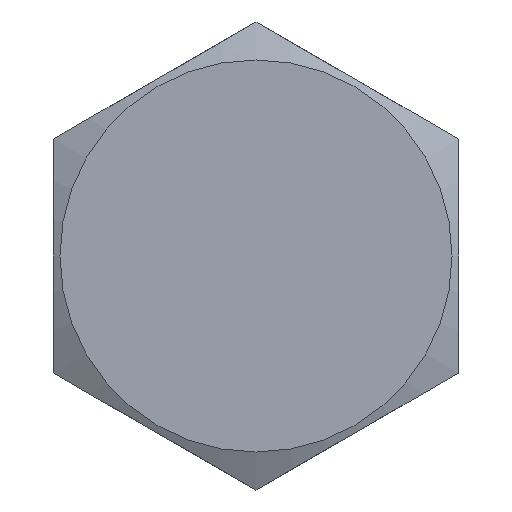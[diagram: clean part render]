
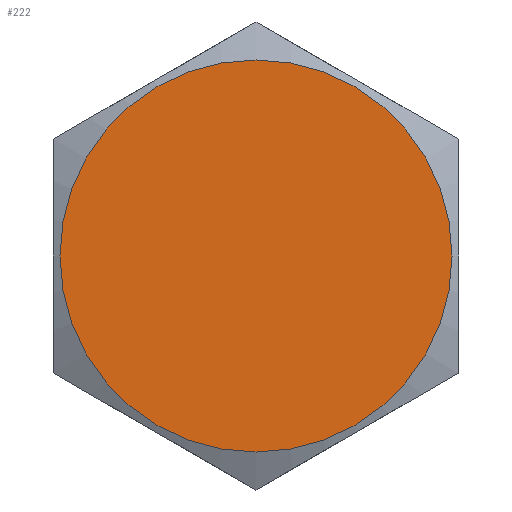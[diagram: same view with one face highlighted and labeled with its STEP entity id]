
A CAD part, left-side view. The second image highlights one B-rep face of the part: STEP entity #222.
In plain terms, the highlighted planar face has unit normal (-1, 0, 0).
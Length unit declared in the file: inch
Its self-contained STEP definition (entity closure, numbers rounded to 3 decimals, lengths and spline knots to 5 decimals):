
#25=PLANE('',#256);
#46=FACE_OUTER_BOUND('',#61,.T.);
#61=EDGE_LOOP('',(#201));
#98=CIRCLE('',#242,0.2418);
#110=VERTEX_POINT('',#341);
#130=EDGE_CURVE('',#110,#110,#98,.T.);
#201=ORIENTED_EDGE('',*,*,#130,.T.);
#222=ADVANCED_FACE('',(#46),#25,.T.);
#242=AXIS2_PLACEMENT_3D('',#343,#270,#271);
#256=AXIS2_PLACEMENT_3D('',#388,#312,#313);
#270=DIRECTION('center_axis',(-1.,0.,0.));
#271=DIRECTION('ref_axis',(0.,0.,1.));
#312=DIRECTION('center_axis',(-1.,0.,0.));
#313=DIRECTION('ref_axis',(0.,0.,1.));
#341=CARTESIAN_POINT('',(0.,0.,-0.2418));
#343=CARTESIAN_POINT('Origin',(0.,0.,0.));
#388=CARTESIAN_POINT('Origin',(0.,0.,0.));
